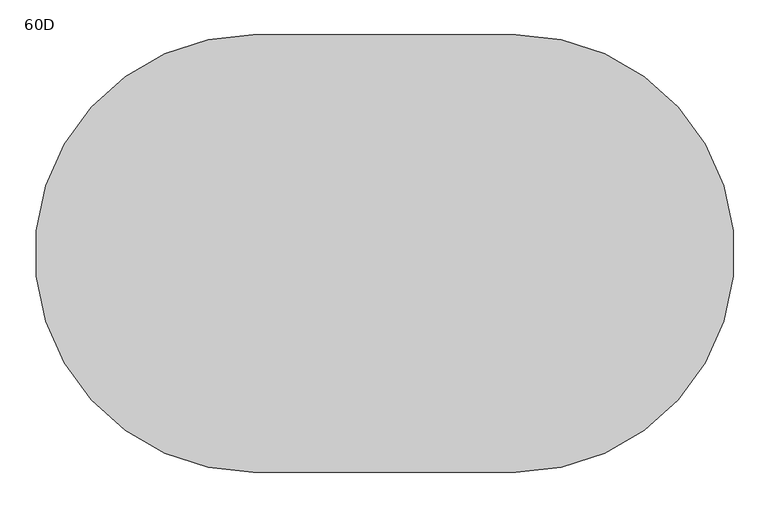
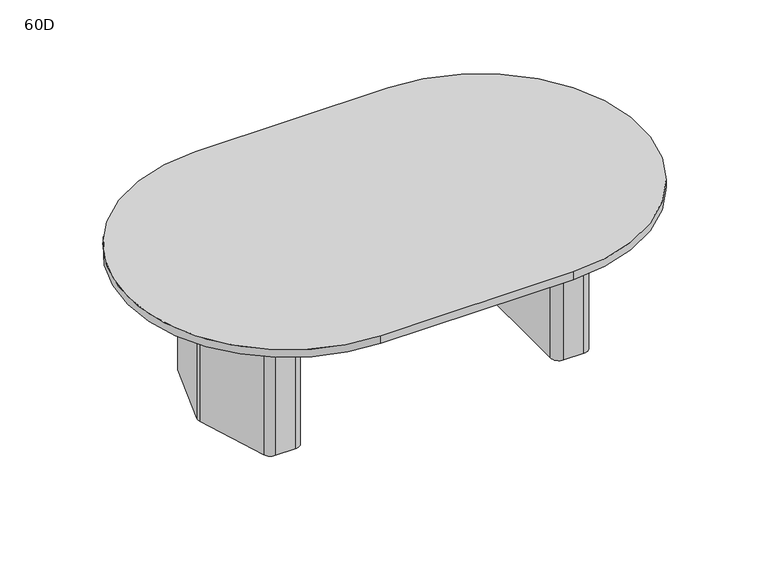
"""IFC4 building model written with IfcOpenShell, lengths in millimetres: furniture geometry, Coalesse_AM_Table_Conference_ETable2_Racetrack_96in_TwoBase : 60D."""

from ifc_helpers import new_model, si_unit, point, frame, frame_2d, origin, origin_with_axes, place, context, project, spatial, polyline, circle_curve, trimmed, segment, composite_curve, outline, extrude, source, transform, mapped, element, save


def furniture_60d_7dae6446(model_context):
    return source(origin(), model_context, "Body", "SweptSolid", [
        extrude(outline(composite_curve([segment(polyline([(817.5625, 101.7236478), (817.5625, -97.2761514)]), True, "CONTINUOUS"), segment(trimmed(circle_curve(frame_2d((779.4625, -97.2761514)), 38.1), [point((817.5625, -97.2761514))], [point((815.7991129, -108.7330515))], False, "CARTESIAN"), True, "CONTINUOUS"), segment(polyline([(815.7991129, -108.7330515), (757.3745591, -294.0319001)]), True, "CONTINUOUS"), segment(trimmed(circle_curve(frame_2d((721.0379462, -282.575)), 38.1), [point((757.3745591, -294.0319001))], [point((721.0379462, -320.675))], False, "CARTESIAN"), True, "CONTINUOUS"), segment(polyline([(721.0379462, -320.675), (654.05, -320.675)]), True, "CONTINUOUS"), segment(trimmed(circle_curve(frame_2d((654.05, -282.575)), 38.1), [point((654.05, -320.675))], [point((615.95, -282.575))], False, "CARTESIAN"), True, "CONTINUOUS"), segment(polyline([(615.95, -282.575), (615.95, 282.575)]), True, "CONTINUOUS"), segment(trimmed(circle_curve(frame_2d((654.05, 282.575)), 38.1), [point((615.95, 282.575))], [point((654.05, 320.675))], False, "CARTESIAN"), True, "CONTINUOUS"), segment(polyline([(654.05, 320.675), (724.7873998, 320.675)]), True, "CONTINUOUS"), segment(trimmed(circle_curve(frame_2d((724.7873998, 282.575)), 38.1), [point((724.7873998, 320.675))], [point((761.2572049, 293.6005756))], False, "CARTESIAN"), True, "CONTINUOUS"), segment(polyline([(761.2572049, 293.6005756), (815.9323051, 112.7492234)]), True, "CONTINUOUS"), segment(trimmed(circle_curve(frame_2d((779.4625, 101.7236478)), 38.1), [point((815.9323051, 112.7492234))], [point((817.5625, 101.7236478))], False, "CARTESIAN"), True, "CONTINUOUS")], self_intersect=False)), origin_with_axes(), (0.0, 0.0, 1.0), 3.175),
        extrude(outline(composite_curve([segment(polyline([(638.175, 381.0), (726.3221663, 381.0)]), True, "CONTINUOUS"), segment(trimmed(circle_curve(frame_2d((726.3221663, 339.725)), 41.275), [point((726.3221663, 381.0))], [point((765.6868303, 352.1366418))], False, "CARTESIAN"), True, "CONTINUOUS"), segment(polyline([(765.6868303, 352.1366418), (872.8018053, 12.4116418)]), True, "CONTINUOUS"), segment(trimmed(circle_curve(frame_2d((833.4371413, 0.0)), 41.275), [point((872.8018053, 12.4116418))], [point((872.8018053, -12.4116418))], False, "CARTESIAN"), True, "CONTINUOUS"), segment(polyline([(872.8018053, -12.4116418), (765.6868303, -352.1366418)]), True, "CONTINUOUS"), segment(trimmed(circle_curve(frame_2d((726.3221663, -339.725)), 41.275), [point((765.6868303, -352.1366418))], [point((726.3221663, -381.0))], False, "CARTESIAN"), True, "CONTINUOUS"), segment(polyline([(726.3221663, -381.0), (631.825, -381.0)]), True, "CONTINUOUS"), segment(trimmed(circle_curve(frame_2d((631.825, -339.725)), 41.275), [point((631.825, -381.0))], [point((590.55, -339.725))], False, "CARTESIAN"), True, "CONTINUOUS"), segment(polyline([(590.55, -339.725), (590.55, 333.375)]), True, "CONTINUOUS"), segment(trimmed(circle_curve(frame_2d((638.175, 333.375)), 47.625), [point((590.55, 333.375))], [point((638.175, 381.0))], False, "CARTESIAN"), True, "CONTINUOUS")], self_intersect=False), holes=[composite_curve([segment(trimmed(circle_curve(frame_2d((654.05, -282.575)), 25.4), [point((628.65, -282.575))], [point((654.05, -307.975))], True, "CARTESIAN"), True, "CONTINUOUS"), segment(polyline([(654.05, -307.975), (721.0379462, -307.975)]), True, "CONTINUOUS"), segment(trimmed(circle_curve(frame_2d((721.0379462, -282.575)), 25.4), [point((721.0379462, -307.975))], [point((745.2623548, -290.2129334))], True, "CARTESIAN"), True, "CONTINUOUS"), segment(polyline([(745.2623548, -290.2129334), (803.6869086, -104.9140848)]), True, "CONTINUOUS"), segment(trimmed(circle_curve(frame_2d((779.4625, -97.2761514)), 25.4), [point((803.6869086, -104.9140848))], [point((804.8625, -97.2761514))], True, "CARTESIAN"), True, "CONTINUOUS"), segment(polyline([(804.8625, -97.2761514), (804.8625, 101.7236478)]), True, "CONTINUOUS"), segment(trimmed(circle_curve(frame_2d((779.4625, 101.7236478)), 25.4), [point((804.8625, 101.7236478))], [point((803.7757034, 109.0740316))], True, "CARTESIAN"), True, "CONTINUOUS"), segment(polyline([(803.7757034, 109.0740316), (749.1006032, 289.9253837)]), True, "CONTINUOUS"), segment(trimmed(circle_curve(frame_2d((724.7873998, 282.575)), 25.4), [point((749.1006032, 289.9253837))], [point((724.7873998, 307.975))], True, "CARTESIAN"), True, "CONTINUOUS"), segment(polyline([(724.7873998, 307.975), (654.05, 307.975)]), True, "CONTINUOUS"), segment(trimmed(circle_curve(frame_2d((654.05, 282.575)), 25.4), [point((654.05, 307.975))], [point((628.65, 282.575))], True, "CARTESIAN"), True, "CONTINUOUS"), segment(polyline([(628.65, 282.575), (628.65, -282.575)]), True, "CONTINUOUS")], self_intersect=False)]), frame((0.0, 0.0, 3.175), z_axis=(0.0, 0.0, 1.0), x_axis=(1.0, 0.0, 0.0)), (0.0, 0.0, 1.0), 695.325),
        extrude(outline(composite_curve([segment(trimmed(circle_curve(frame_2d((-790.575, 101.7236478)), 38.1), [point((-828.675, 101.7236478))], [point((-827.0448051, 112.7492234))], False, "CARTESIAN"), True, "CONTINUOUS"), segment(polyline([(-827.0448051, 112.7492234), (-772.3697049, 293.6005756)]), True, "CONTINUOUS"), segment(trimmed(circle_curve(frame_2d((-735.8998998, 282.575)), 38.1), [point((-772.3697049, 293.6005756))], [point((-735.8998998, 320.675))], False, "CARTESIAN"), True, "CONTINUOUS"), segment(polyline([(-735.8998998, 320.675), (-665.1625, 320.675)]), True, "CONTINUOUS"), segment(trimmed(circle_curve(frame_2d((-665.1625, 282.575)), 38.1), [point((-665.1625, 320.675))], [point((-627.0625, 282.575))], False, "CARTESIAN"), True, "CONTINUOUS"), segment(polyline([(-627.0625, 282.575), (-627.0625, -282.575)]), True, "CONTINUOUS"), segment(trimmed(circle_curve(frame_2d((-665.1625, -282.575)), 38.1), [point((-627.0625, -282.575))], [point((-665.1625, -320.675))], False, "CARTESIAN"), True, "CONTINUOUS"), segment(polyline([(-665.1625, -320.675), (-732.1504462, -320.675)]), True, "CONTINUOUS"), segment(trimmed(circle_curve(frame_2d((-732.1504462, -282.575)), 38.1), [point((-732.1504462, -320.675))], [point((-768.4870591, -294.0319001))], False, "CARTESIAN"), True, "CONTINUOUS"), segment(polyline([(-768.4870591, -294.0319001), (-826.9116129, -108.7330515)]), True, "CONTINUOUS"), segment(trimmed(circle_curve(frame_2d((-790.575, -97.2761514)), 38.1), [point((-826.9116129, -108.7330515))], [point((-828.675, -97.2761514))], False, "CARTESIAN"), True, "CONTINUOUS"), segment(polyline([(-828.675, -97.2761514), (-828.675, 101.7236478)]), True, "CONTINUOUS")], self_intersect=False)), origin_with_axes(), (0.0, 0.0, 1.0), 3.175),
        extrude(outline(composite_curve([segment(trimmed(circle_curve(frame_2d((-649.2875, 333.375)), 47.625), [point((-649.2875, 381.0))], [point((-601.6625, 333.375))], False, "CARTESIAN"), True, "CONTINUOUS"), segment(polyline([(-601.6625, 333.375), (-601.6625, -339.725)]), True, "CONTINUOUS"), segment(trimmed(circle_curve(frame_2d((-642.9375, -339.725)), 41.275), [point((-601.6625, -339.725))], [point((-642.9375, -381.0))], False, "CARTESIAN"), True, "CONTINUOUS"), segment(polyline([(-642.9375, -381.0), (-737.4346663, -381.0)]), True, "CONTINUOUS"), segment(trimmed(circle_curve(frame_2d((-737.4346663, -339.725)), 41.275), [point((-737.4346663, -381.0))], [point((-776.7993303, -352.1366418))], False, "CARTESIAN"), True, "CONTINUOUS"), segment(polyline([(-776.7993303, -352.1366418), (-883.9143053, -12.4116418)]), True, "CONTINUOUS"), segment(trimmed(circle_curve(frame_2d((-844.5496413, 0.0)), 41.275), [point((-883.9143053, -12.4116418))], [point((-883.9143053, 12.4116418))], False, "CARTESIAN"), True, "CONTINUOUS"), segment(polyline([(-883.9143053, 12.4116418), (-776.7993303, 352.1366418)]), True, "CONTINUOUS"), segment(trimmed(circle_curve(frame_2d((-737.4346663, 339.725)), 41.275), [point((-776.7993303, 352.1366418))], [point((-737.4346663, 381.0))], False, "CARTESIAN"), True, "CONTINUOUS"), segment(polyline([(-737.4346663, 381.0), (-649.2875, 381.0)]), True, "CONTINUOUS")], self_intersect=False), holes=[composite_curve([segment(polyline([(-639.7625, -282.575), (-639.7625, 282.575)]), True, "CONTINUOUS"), segment(trimmed(circle_curve(frame_2d((-665.1625, 282.575)), 25.4), [point((-639.7625, 282.575))], [point((-665.1625, 307.975))], True, "CARTESIAN"), True, "CONTINUOUS"), segment(polyline([(-665.1625, 307.975), (-735.8998998, 307.975)]), True, "CONTINUOUS"), segment(trimmed(circle_curve(frame_2d((-735.8998998, 282.575)), 25.4), [point((-735.8998998, 307.975))], [point((-760.2131032, 289.9253837))], True, "CARTESIAN"), True, "CONTINUOUS"), segment(polyline([(-760.2131032, 289.9253837), (-814.8882034, 109.0740316)]), True, "CONTINUOUS"), segment(trimmed(circle_curve(frame_2d((-790.575, 101.7236478)), 25.4), [point((-814.8882034, 109.0740316))], [point((-815.975, 101.7236478))], True, "CARTESIAN"), True, "CONTINUOUS"), segment(polyline([(-815.975, 101.7236478), (-815.975, -97.2761514)]), True, "CONTINUOUS"), segment(trimmed(circle_curve(frame_2d((-790.575, -97.2761514)), 25.4), [point((-815.975, -97.2761514))], [point((-814.7994086, -104.9140848))], True, "CARTESIAN"), True, "CONTINUOUS"), segment(polyline([(-814.7994086, -104.9140848), (-756.3748548, -290.2129334)]), True, "CONTINUOUS"), segment(trimmed(circle_curve(frame_2d((-732.1504462, -282.575)), 25.4), [point((-756.3748548, -290.2129334))], [point((-732.1504462, -307.975))], True, "CARTESIAN"), True, "CONTINUOUS"), segment(polyline([(-732.1504462, -307.975), (-665.1625, -307.975)]), True, "CONTINUOUS"), segment(trimmed(circle_curve(frame_2d((-665.1625, -282.575)), 25.4), [point((-665.1625, -307.975))], [point((-639.7625, -282.575))], True, "CARTESIAN"), True, "CONTINUOUS")], self_intersect=False)]), frame((0.0, 0.0, 3.175), z_axis=(0.0, 0.0, 1.0), x_axis=(1.0, 0.0, 0.0)), (0.0, 0.0, 1.0), 695.325),
        extrude(outline(polyline([(96.8375, 698.5), (103.1875, 698.5), (103.1875, 476.25), (-103.1875, 476.25), (-103.1875, 698.5), (-96.8375, 698.5), (-96.8375, 482.6), (96.8375, 482.6), (96.8375, 698.5)])), frame((-601.6625, 0.0, 0.0), z_axis=(1.0, 0.0, 0.0), x_axis=(0.0, 1.0, 0.0)), (0.0, 0.0, 1.0), 1192.2125),
        extrude(outline(composite_curve([segment(trimmed(circle_curve(frame_2d((-457.2, 0.0)), 762.0), [point((-457.2, -762.0))], [point((-457.2, 762.0))], False, "CARTESIAN"), True, "CONTINUOUS"), segment(polyline([(-457.2, 762.0), (457.2, 762.0)]), True, "CONTINUOUS"), segment(trimmed(circle_curve(frame_2d((457.2, 0.0)), 762.0), [point((457.2, 762.0))], [point((457.2, -762.0))], False, "CARTESIAN"), True, "CONTINUOUS"), segment(polyline([(457.2, -762.0), (-457.2, -762.0)]), True, "CONTINUOUS")], self_intersect=False)), frame((0.0, 0.0, 698.5), z_axis=(0.0, 0.0, 1.0), x_axis=(1.0, 0.0, 0.0)), (0.0, 0.0, 1.0), 38.1),
    ])


if __name__ == "__main__":
    model = new_model("IFC4")
    model_context = context("Model", 3, world=origin())
    ifc_project = project(units=[si_unit("LENGTHUNIT", "METRE", prefix="MILLI")], contexts=[model_context])
    site = spatial("IfcSite", under=ifc_project)
    building = spatial("IfcBuilding", under=site)
    placement = place(None, origin())
    furniture_60d_shape = furniture_60d_7dae6446(model_context)
    element("IfcFurniture", 1, ObjectType="Coalesse_AM_Table_Conference_ETable2_Racetrack_96in_TwoBase : 60D", at=placement, inside=building, context=model_context, shape_type="MappedRepresentation", body=[
        mapped(furniture_60d_shape, transform((0.0, 0.0, 0.0), x_axis=(1.0, 0.0, 0.0), y_axis=(0.0, 1.0, 0.0), z_axis=(0.0, 0.0, 1.0))),
    ])
    save(model, "model.ifc")
